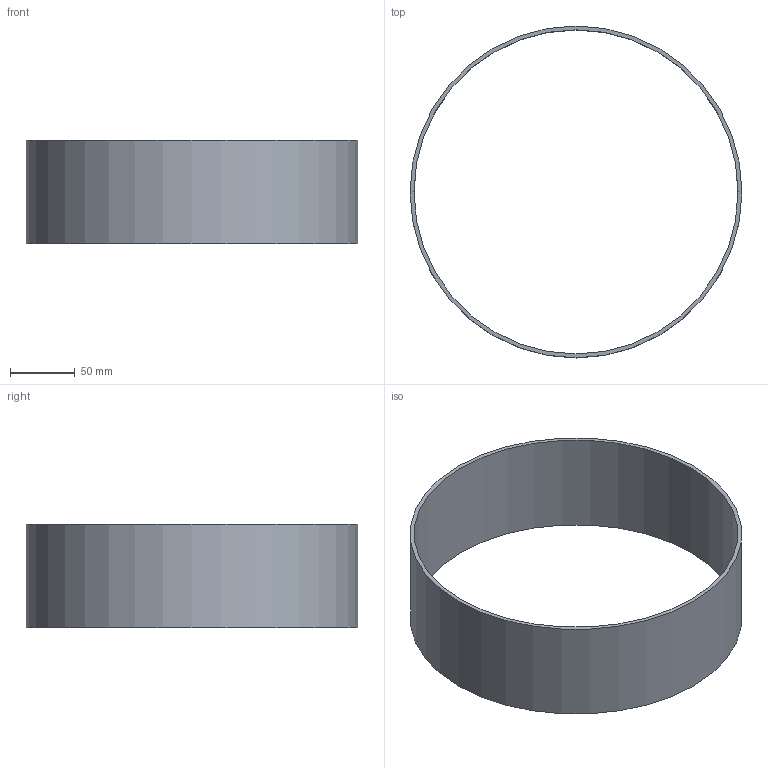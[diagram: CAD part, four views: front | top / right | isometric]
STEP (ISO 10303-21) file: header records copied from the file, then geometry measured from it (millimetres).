
FILE_DESCRIPTION(('Open CASCADE Model'),'2;1');
FILE_NAME('Open CASCADE Shape Model','2026-10-19T10:09:20',('Author'),( 'Open CASCADE'),'Open CASCADE STEP processor 8.0','Open CASCADE 8.0' ,'Unknown');
FILE_SCHEMA(('AUTOMOTIVE_DESIGN { 1 0 10303 214 1 1 1 1 }'));
Length unit declared in the file: millimetre
Products named in the file (1): MS02_CUELLO_ID250_OD256_L80_P05 89
Bounding box: 256 x 256 x 80 mm (x, y, z)
Volume: 190757.5 mm3; surface area: 131940.6 mm2
Topology: 1 solids, 1 shells, 4 faces, 6 edges, 4 vertices
Faces by surface type: cylinder 2, plane 2
Full cylindrical faces by diameter (mm): 250 x1, 256 x1
Entity records: 198 total; most frequent: CARTESIAN_POINT 51, DIRECTION 28, ORIENTED_EDGE 12, PCURVE 12, DEFINITIONAL_REPRESENTATION 12, LINE 10, VECTOR 10, AXIS2_PLACEMENT_3D 9
